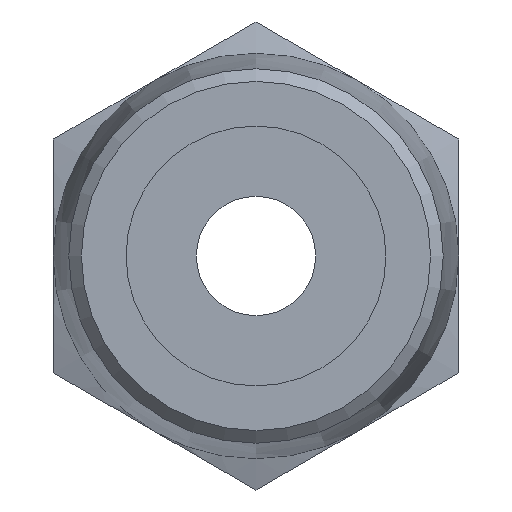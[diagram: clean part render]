
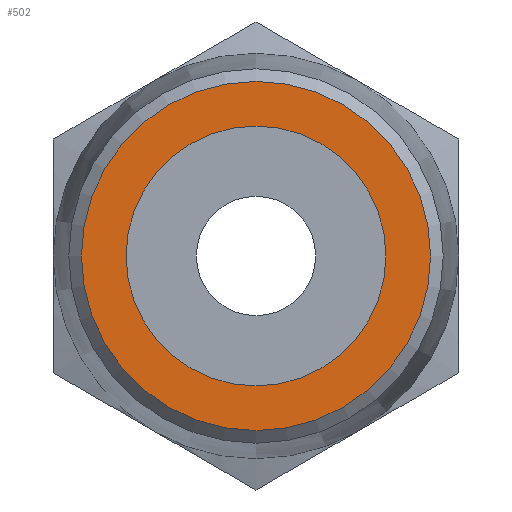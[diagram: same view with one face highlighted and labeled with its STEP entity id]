
A CAD part, front view. The second image highlights one B-rep face of the part: STEP entity #502.
In plain terms, the highlighted planar face has unit normal (0, -1, 0).
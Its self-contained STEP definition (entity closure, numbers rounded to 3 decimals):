
#42=FACE_BOUND('',#104,.T.);
#50=PLANE('',#572);
#66=FACE_OUTER_BOUND('',#103,.T.);
#103=EDGE_LOOP('',(#348));
#104=EDGE_LOOP('',(#349));
#180=CIRCLE('',#561,7.321);
#190=CIRCLE('',#573,5.45);
#213=VERTEX_POINT('',#791);
#223=VERTEX_POINT('',#815);
#258=EDGE_CURVE('',#213,#213,#180,.T.);
#270=EDGE_CURVE('',#223,#223,#190,.T.);
#348=ORIENTED_EDGE('',*,*,#258,.F.);
#349=ORIENTED_EDGE('',*,*,#270,.T.);
#502=ADVANCED_FACE('',(#66,#42),#50,.T.);
#561=AXIS2_PLACEMENT_3D('',#792,#634,#635);
#572=AXIS2_PLACEMENT_3D('',#814,#658,#659);
#573=AXIS2_PLACEMENT_3D('',#816,#660,#661);
#634=DIRECTION('center_axis',(0.,1.,0.));
#635=DIRECTION('ref_axis',(0.,0.,1.));
#658=DIRECTION('center_axis',(0.,-1.,0.));
#659=DIRECTION('ref_axis',(0.,0.,-1.));
#660=DIRECTION('center_axis',(0.,1.,0.));
#661=DIRECTION('ref_axis',(1.,0.,0.));
#791=CARTESIAN_POINT('',(0.,-11.,-7.321));
#792=CARTESIAN_POINT('Origin',(0.,-11.,0.));
#814=CARTESIAN_POINT('Origin',(0.,-11.,0.));
#815=CARTESIAN_POINT('',(-5.45,-11.,0.));
#816=CARTESIAN_POINT('Origin',(0.,-11.,0.));
